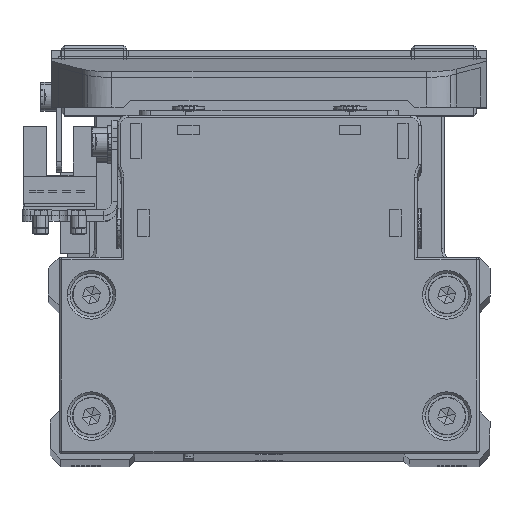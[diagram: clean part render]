
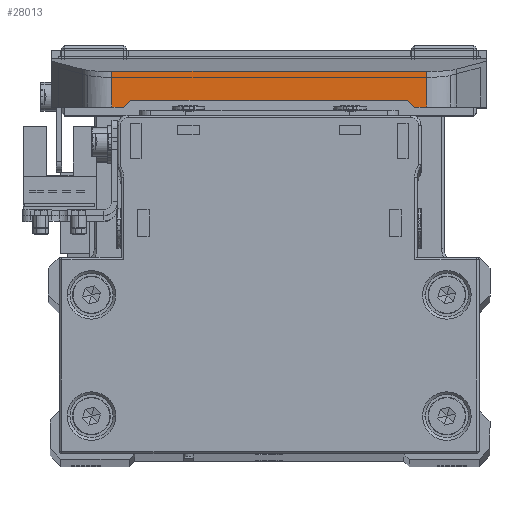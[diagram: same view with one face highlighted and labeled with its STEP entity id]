
A CAD part, top view. The second image highlights one B-rep face of the part: STEP entity #28013.
In plain terms, the highlighted planar face has unit normal (0, 0, 1) as drawn and (-1, 0, 0) by its records, which use the part's own axes.
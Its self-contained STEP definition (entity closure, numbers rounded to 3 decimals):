
#33 = FACE_OUTER_BOUND ( 'NONE', #13145, .T. ) ;
#744 = DIRECTION ( 'NONE',  ( 0., 0., -1. ) ) ;
#1085 = EDGE_CURVE ( 'NONE', #20465, #8268, #28940, .T. ) ;
#1123 = DIRECTION ( 'NONE',  ( 0., 1., 0. ) ) ;
#1293 = VERTEX_POINT ( 'NONE', #12235 ) ;
#1527 = VECTOR ( 'NONE', #5149, 1000. ) ;
#1997 = CARTESIAN_POINT ( 'NONE',  ( -67.5, 10.6, 40.4 ) ) ;
#2262 = CARTESIAN_POINT ( 'NONE',  ( -67.5, 10.6, 27. ) ) ;
#2392 = DIRECTION ( 'NONE',  ( 0., 0.655, -0.756 ) ) ;
#3258 = EDGE_CURVE ( 'NONE', #1293, #20465, #16073, .T. ) ;
#3853 = LINE ( 'NONE', #15838, #24539 ) ;
#3949 = VERTEX_POINT ( 'NONE', #31410 ) ;
#4381 = EDGE_CURVE ( 'NONE', #1293, #8222, #22321, .T. ) ;
#5149 = DIRECTION ( 'NONE',  ( 0., -0.655, -0.756 ) ) ;
#5452 = ORIENTED_EDGE ( 'NONE', *, *, #4381, .F. ) ;
#7326 = VERTEX_POINT ( 'NONE', #15409 ) ;
#7384 = DIRECTION ( 'NONE',  ( 0., 0., -1. ) ) ;
#7407 = CARTESIAN_POINT ( 'NONE',  ( -67.5, 9.3, 25.5 ) ) ;
#7610 = EDGE_CURVE ( 'NONE', #17822, #3949, #17340, .T. ) ;
#8222 = VERTEX_POINT ( 'NONE', #19983 ) ;
#8268 = VERTEX_POINT ( 'NONE', #2262 ) ;
#9113 = DIRECTION ( 'NONE',  ( 0., 0., -1. ) ) ;
#9952 = VECTOR ( 'NONE', #19388, 1000. ) ;
#12057 = PLANE ( 'NONE',  #38446 ) ;
#12235 = CARTESIAN_POINT ( 'NONE',  ( -67.5, 4., 29.225 ) ) ;
#12324 = ORIENTED_EDGE ( 'NONE', *, *, #15047, .T. ) ;
#12741 = ORIENTED_EDGE ( 'NONE', *, *, #23048, .T. ) ;
#13145 = EDGE_LOOP ( 'NONE', ( #12324, #20181, #35694, #21212, #5452, #36884, #31712, #12741 ) ) ;
#13203 = VECTOR ( 'NONE', #2392, 1000. ) ;
#14005 = DIRECTION ( 'NONE',  ( 0., 0., -1. ) ) ;
#14477 = EDGE_CURVE ( 'NONE', #3949, #22949, #15695, .T. ) ;
#15047 = EDGE_CURVE ( 'NONE', #7326, #17822, #34328, .T. ) ;
#15409 = CARTESIAN_POINT ( 'NONE',  ( -67.5, 9.3, 25.5 ) ) ;
#15588 = VECTOR ( 'NONE', #7384, 1000. ) ;
#15695 = LINE ( 'NONE', #27696, #27484 ) ;
#15838 = CARTESIAN_POINT ( 'NONE',  ( -67.5, 4., -29.225 ) ) ;
#16073 = LINE ( 'NONE', #28079, #21793 ) ;
#17277 = EDGE_CURVE ( 'NONE', #22949, #8222, #3853, .T. ) ;
#17340 = LINE ( 'NONE', #29340, #13203 ) ;
#17822 = VERTEX_POINT ( 'NONE', #19867 ) ;
#19306 = CARTESIAN_POINT ( 'NONE',  ( -67.5, 10.6, -29.225 ) ) ;
#19388 = DIRECTION ( 'NONE',  ( 0., 0., -1. ) ) ;
#19867 = CARTESIAN_POINT ( 'NONE',  ( -67.5, 9.3, -25.5 ) ) ;
#19983 = CARTESIAN_POINT ( 'NONE',  ( -67.5, 4., -29.225 ) ) ;
#20093 = LINE ( 'NONE', #32096, #1527 ) ;
#20181 = ORIENTED_EDGE ( 'NONE', *, *, #7610, .T. ) ;
#20465 = VERTEX_POINT ( 'NONE', #38363 ) ;
#21212 = ORIENTED_EDGE ( 'NONE', *, *, #17277, .T. ) ;
#21793 = VECTOR ( 'NONE', #1123, 1000. ) ;
#22321 = LINE ( 'NONE', #34306, #15588 ) ;
#22949 = VERTEX_POINT ( 'NONE', #19306 ) ;
#23048 = EDGE_CURVE ( 'NONE', #8268, #7326, #20093, .T. ) ;
#24056 = CARTESIAN_POINT ( 'NONE',  ( -67.5, 10.6, 40.4 ) ) ;
#24539 = VECTOR ( 'NONE', #27844, 1000. ) ;
#27484 = VECTOR ( 'NONE', #744, 1000. ) ;
#27696 = CARTESIAN_POINT ( 'NONE',  ( -67.5, 10.6, 40.4 ) ) ;
#27844 = DIRECTION ( 'NONE',  ( 0., -1., 0. ) ) ;
#28013 = ADVANCED_FACE ( 'NONE', ( #33 ), #12057, .F. ) ;
#28079 = CARTESIAN_POINT ( 'NONE',  ( -67.5, 10.6, 29.225 ) ) ;
#28940 = LINE ( 'NONE', #1997, #34333 ) ;
#29340 = CARTESIAN_POINT ( 'NONE',  ( -67.5, 10.6, -27. ) ) ;
#31410 = CARTESIAN_POINT ( 'NONE',  ( -67.5, 10.6, -27. ) ) ;
#31712 = ORIENTED_EDGE ( 'NONE', *, *, #1085, .T. ) ;
#32096 = CARTESIAN_POINT ( 'NONE',  ( -67.5, 10.6, 27. ) ) ;
#34306 = CARTESIAN_POINT ( 'NONE',  ( -67.5, 4., 40.4 ) ) ;
#34328 = LINE ( 'NONE', #7407, #9952 ) ;
#34333 = VECTOR ( 'NONE', #14005, 1000. ) ;
#35694 = ORIENTED_EDGE ( 'NONE', *, *, #14477, .T. ) ;
#36047 = DIRECTION ( 'NONE',  ( 1., 0., 0. ) ) ;
#36884 = ORIENTED_EDGE ( 'NONE', *, *, #3258, .T. ) ;
#38363 = CARTESIAN_POINT ( 'NONE',  ( -67.5, 10.6, 29.225 ) ) ;
#38446 = AXIS2_PLACEMENT_3D ( 'NONE', #24056, #36047, #9113 ) ;
